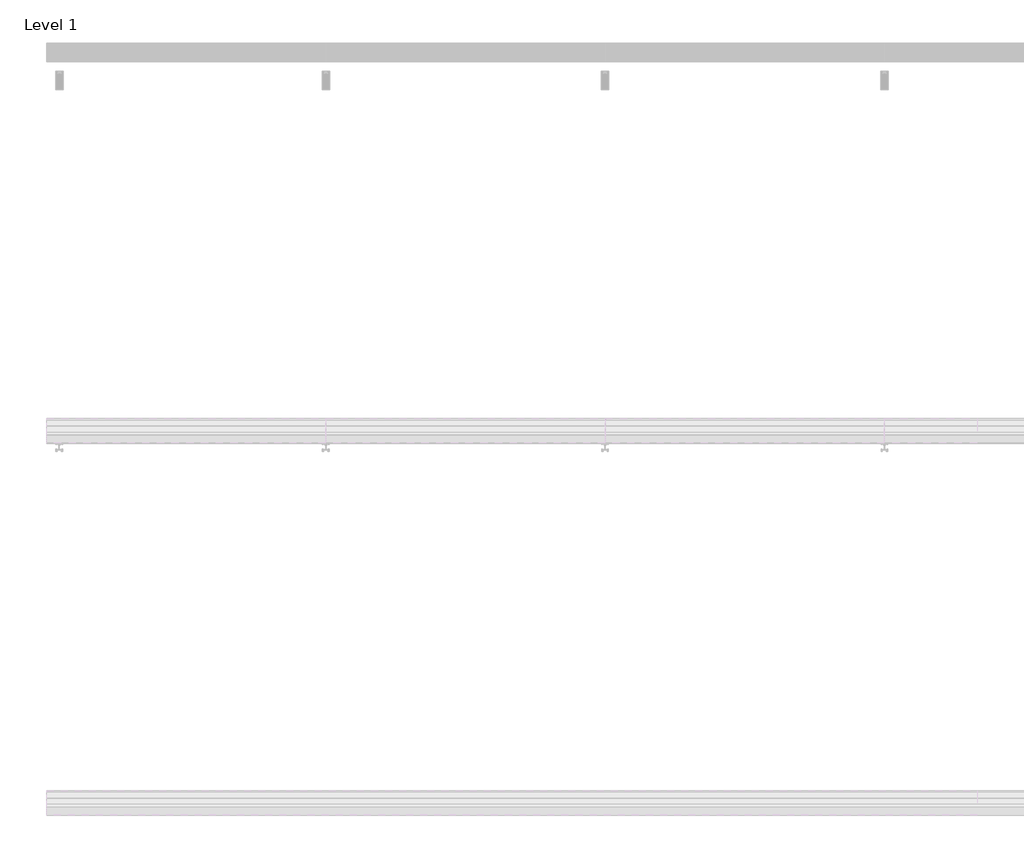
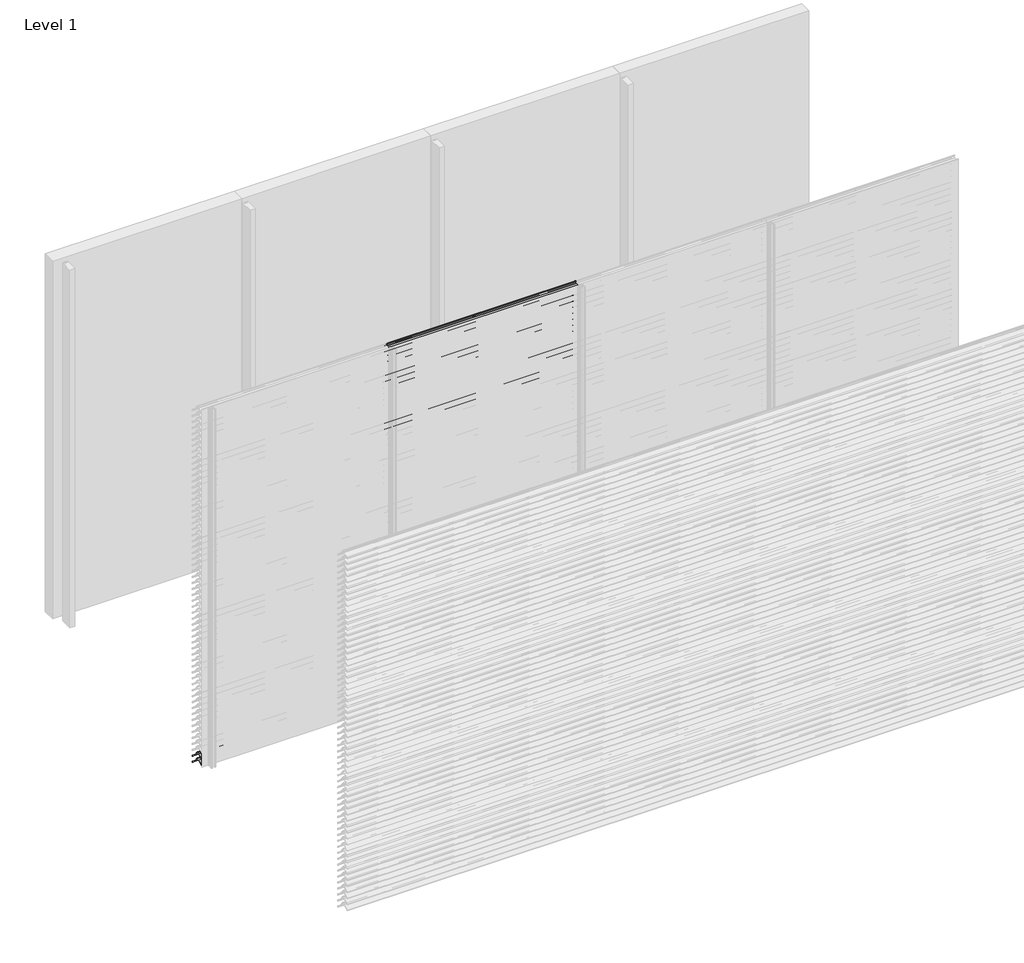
# One storey, part 44 of 173: 17 proxies.
"""IFC4 building model written with IfcOpenShell, lengths in millimetres."""

from ifc_helpers import new_model, si_unit, point, frame, frame_2d, origin, place, context, project, spatial, polyline, circle_curve, trimmed, segment, composite_curve, outline, extrude, element, save

model = new_model("IFC4")

# Units and contexts
model_context = context("Model", 3, world=origin())
ifc_project = project(units=[si_unit("LENGTHUNIT", "METRE", prefix="MILLI")], contexts=[model_context])

# Site, building, storey
site = spatial("IfcSite", under=ifc_project)
building = spatial("IfcBuilding", under=site)
storey = spatial("IfcBuildingStorey", under=building, Name="Level 1", Elevation=0.0)

# Proxies
placement = place(None, origin())
element("IfcBuildingElementProxy", 1, Name="Wall Sweeps", at=placement, inside=storey, context=model_context, shape_type="SweptSolid", body=[
    extrude(outline(composite_curve([segment(polyline([(-41998.0, 59.1474905), (-41998.0, 61.6227417)]), True, "CONTINUOUS"), segment(trimmed(circle_curve(frame_2d((-41951.2682172, 16.2200208)), 65.1557103), [point((-41998.0, 61.6227417))], [point((-41954.4014323, 81.3003524))], False, "CARTESIAN"), True, "CONTINUOUS"), segment(polyline([(-41954.4014323, 81.3003524), (-41934.8315836, 81.3003524)]), True, "CONTINUOUS"), segment(trimmed(circle_curve(frame_2d((-41732.7329489, 228.5533172)), 250.0545817), [point((-41934.8315836, 81.3003524))], [point((-41941.4452143, 90.8344583))], False, "CARTESIAN"), True, "CONTINUOUS"), segment(trimmed(circle_curve(frame_2d((-41953.2981792, 85.1737835)), 13.1352966), [point((-41941.4452143, 90.8344583))], [point((-41953.8171475, 98.298824))], True, "CARTESIAN"), True, "CONTINUOUS"), segment(polyline([(-41953.8171475, 98.298824), (-41953.8171475, 100.0)]), True, "CONTINUOUS"), segment(trimmed(circle_curve(frame_2d((-41953.2981792, 85.1737835)), 14.8352966), [point((-41953.8171475, 100.0))], [point((-41939.9637661, 91.6760487))], False, "CARTESIAN"), True, "CONTINUOUS"), segment(trimmed(circle_curve(frame_2d((-41732.7329489, 228.5533172)), 248.3545817), [point((-41939.9637661, 91.6760487))], [point((-41873.8787895, 24.2059416))], True, "CARTESIAN"), True, "CONTINUOUS"), segment(trimmed(circle_curve(frame_2d((-41883.8147537, 11.6649442)), 16.0), [point((-41873.8787895, 24.2059416))], [point((-41867.8648347, 10.4))], False, "CARTESIAN"), True, "CONTINUOUS"), segment(polyline([(-41867.8648347, 10.4), (-41869.6712069, 10.4)]), True, "CONTINUOUS"), segment(trimmed(circle_curve(frame_2d((-41883.8147537, 11.6649442)), 14.2), [point((-41869.6712069, 10.4))], [point((-41874.9518628, 22.7594998))], True, "CARTESIAN"), True, "CONTINUOUS"), segment(trimmed(circle_curve(frame_2d((-41732.7329489, 228.5533172)), 250.1545817), [point((-41874.9518628, 22.7594998))], [point((-41933.7064024, 79.6003524))], False, "CARTESIAN"), True, "CONTINUOUS"), segment(polyline([(-41933.7064024, 79.6003524), (-41954.3602632, 79.6003524)]), True, "CONTINUOUS"), segment(trimmed(circle_curve(frame_2d((-41951.2682172, 16.2200208)), 63.4557103), [point((-41954.3602632, 79.6003524))], [point((-41998.0, 59.1474905))], True, "CARTESIAN"), True, "CONTINUOUS")], self_intersect=False)), frame((0.0, 0.0, 0.0), z_axis=(1.0, 0.0, 0.0), x_axis=(0.0, 1.0, 0.0)), (0.0, 0.0, 1.0), 1500.0),
])
element("IfcBuildingElementProxy", 2, Name="Wall Sweeps", at=placement, inside=storey, context=model_context, shape_type="SweptSolid", body=[
    extrude(outline(composite_curve([segment(polyline([(-41998.0, 9.1474905), (-41998.0, 11.6227417)]), True, "CONTINUOUS"), segment(trimmed(circle_curve(frame_2d((-41951.2682172, -33.7799792)), 65.1557103), [point((-41998.0, 11.6227417))], [point((-41954.4014323, 31.3003524))], False, "CARTESIAN"), True, "CONTINUOUS"), segment(polyline([(-41954.4014323, 31.3003524), (-41934.8315836, 31.3003524)]), True, "CONTINUOUS"), segment(trimmed(circle_curve(frame_2d((-41732.7329489, 178.5533172)), 250.0545817), [point((-41934.8315836, 31.3003524))], [point((-41941.4452143, 40.8344583))], False, "CARTESIAN"), True, "CONTINUOUS"), segment(trimmed(circle_curve(frame_2d((-41953.2981792, 35.1737835)), 13.1352966), [point((-41941.4452143, 40.8344583))], [point((-41953.8171475, 48.298824))], True, "CARTESIAN"), True, "CONTINUOUS"), segment(polyline([(-41953.8171475, 48.298824), (-41953.8171475, 50.0)]), True, "CONTINUOUS"), segment(trimmed(circle_curve(frame_2d((-41953.2981792, 35.1737835)), 14.8352966), [point((-41953.8171475, 50.0))], [point((-41939.9637661, 41.6760487))], False, "CARTESIAN"), True, "CONTINUOUS"), segment(trimmed(circle_curve(frame_2d((-41732.7329489, 178.5533172)), 248.3545817), [point((-41939.9637661, 41.6760487))], [point((-41873.8787895, -25.7940584))], True, "CARTESIAN"), True, "CONTINUOUS"), segment(trimmed(circle_curve(frame_2d((-41883.8147537, -38.3350558)), 16.0), [point((-41873.8787895, -25.7940584))], [point((-41867.8648347, -39.6))], False, "CARTESIAN"), True, "CONTINUOUS"), segment(polyline([(-41867.8648347, -39.6), (-41869.6712069, -39.6)]), True, "CONTINUOUS"), segment(trimmed(circle_curve(frame_2d((-41883.8147537, -38.3350558)), 14.2), [point((-41869.6712069, -39.6))], [point((-41874.9518628, -27.2405002))], True, "CARTESIAN"), True, "CONTINUOUS"), segment(trimmed(circle_curve(frame_2d((-41732.7329489, 178.5533172)), 250.1545817), [point((-41874.9518628, -27.2405002))], [point((-41933.7064024, 29.6003524))], False, "CARTESIAN"), True, "CONTINUOUS"), segment(polyline([(-41933.7064024, 29.6003524), (-41954.3602632, 29.6003524)]), True, "CONTINUOUS"), segment(trimmed(circle_curve(frame_2d((-41951.2682172, -33.7799792)), 63.4557103), [point((-41954.3602632, 29.6003524))], [point((-41998.0, 9.1474905))], True, "CARTESIAN"), True, "CONTINUOUS")], self_intersect=False)), frame((0.0, 0.0, 0.0), z_axis=(1.0, 0.0, 0.0), x_axis=(0.0, 1.0, 0.0)), (0.0, 0.0, 1.0), 1500.0),
])
element("IfcBuildingElementProxy", 3, Name="Wall Sweeps", at=placement, inside=storey, context=model_context, shape_type="SweptSolid", body=[
    extrude(outline(composite_curve([segment(polyline([(-41998.0, 2959.1474905), (-41998.0, 2961.6227417)]), True, "CONTINUOUS"), segment(trimmed(circle_curve(frame_2d((-41951.2682172, 2916.2200208)), 65.1557103), [point((-41998.0, 2961.6227417))], [point((-41954.4014323, 2981.3003524))], False, "CARTESIAN"), True, "CONTINUOUS"), segment(polyline([(-41954.4014323, 2981.3003524), (-41934.8315836, 2981.3003524)]), True, "CONTINUOUS"), segment(trimmed(circle_curve(frame_2d((-41732.7329489, 3128.5533172)), 250.0545817), [point((-41934.8315836, 2981.3003524))], [point((-41941.4452143, 2990.8344583))], False, "CARTESIAN"), True, "CONTINUOUS"), segment(trimmed(circle_curve(frame_2d((-41953.2981792, 2985.1737835)), 13.1352966), [point((-41941.4452143, 2990.8344583))], [point((-41953.8171475, 2998.298824))], True, "CARTESIAN"), True, "CONTINUOUS"), segment(polyline([(-41953.8171475, 2998.298824), (-41953.8171475, 3000.0)]), True, "CONTINUOUS"), segment(trimmed(circle_curve(frame_2d((-41953.2981792, 2985.1737835)), 14.8352966), [point((-41953.8171475, 3000.0))], [point((-41939.9637661, 2991.6760487))], False, "CARTESIAN"), True, "CONTINUOUS"), segment(trimmed(circle_curve(frame_2d((-41732.7329489, 3128.5533172)), 248.3545817), [point((-41939.9637661, 2991.6760487))], [point((-41873.8787895, 2924.2059416))], True, "CARTESIAN"), True, "CONTINUOUS"), segment(trimmed(circle_curve(frame_2d((-41883.8147537, 2911.6649442)), 16.0), [point((-41873.8787895, 2924.2059416))], [point((-41867.8648347, 2910.4))], False, "CARTESIAN"), True, "CONTINUOUS"), segment(polyline([(-41867.8648347, 2910.4), (-41869.6712069, 2910.4)]), True, "CONTINUOUS"), segment(trimmed(circle_curve(frame_2d((-41883.8147537, 2911.6649442)), 14.2), [point((-41869.6712069, 2910.4))], [point((-41874.9518628, 2922.7594998))], True, "CARTESIAN"), True, "CONTINUOUS"), segment(trimmed(circle_curve(frame_2d((-41732.7329489, 3128.5533172)), 250.1545817), [point((-41874.9518628, 2922.7594998))], [point((-41933.7064024, 2979.6003524))], False, "CARTESIAN"), True, "CONTINUOUS"), segment(polyline([(-41933.7064024, 2979.6003524), (-41954.3602632, 2979.6003524)]), True, "CONTINUOUS"), segment(trimmed(circle_curve(frame_2d((-41951.2682172, 2916.2200208)), 63.4557103), [point((-41954.3602632, 2979.6003524))], [point((-41998.0, 2959.1474905))], True, "CARTESIAN"), True, "CONTINUOUS")], self_intersect=False)), frame((1500.0, 0.0, 0.0), z_axis=(1.0, 0.0, 0.0), x_axis=(0.0, 1.0, 0.0)), (0.0, 0.0, 1.0), 1500.0),
])
element("IfcBuildingElementProxy", 4, Name="Wall Sweeps", at=placement, inside=storey, context=model_context, shape_type="SweptSolid", body=[
    extrude(outline(composite_curve([segment(polyline([(-41998.0, 2909.1474905), (-41998.0, 2911.6227417)]), True, "CONTINUOUS"), segment(trimmed(circle_curve(frame_2d((-41951.2682172, 2866.2200208)), 65.1557103), [point((-41998.0, 2911.6227417))], [point((-41954.4014323, 2931.3003524))], False, "CARTESIAN"), True, "CONTINUOUS"), segment(polyline([(-41954.4014323, 2931.3003524), (-41934.8315836, 2931.3003524)]), True, "CONTINUOUS"), segment(trimmed(circle_curve(frame_2d((-41732.7329489, 3078.5533172)), 250.0545817), [point((-41934.8315836, 2931.3003524))], [point((-41941.4452143, 2940.8344583))], False, "CARTESIAN"), True, "CONTINUOUS"), segment(trimmed(circle_curve(frame_2d((-41953.2981792, 2935.1737835)), 13.1352966), [point((-41941.4452143, 2940.8344583))], [point((-41953.8171475, 2948.298824))], True, "CARTESIAN"), True, "CONTINUOUS"), segment(polyline([(-41953.8171475, 2948.298824), (-41953.8171475, 2950.0)]), True, "CONTINUOUS"), segment(trimmed(circle_curve(frame_2d((-41953.2981792, 2935.1737835)), 14.8352966), [point((-41953.8171475, 2950.0))], [point((-41939.9637661, 2941.6760487))], False, "CARTESIAN"), True, "CONTINUOUS"), segment(trimmed(circle_curve(frame_2d((-41732.7329489, 3078.5533172)), 248.3545817), [point((-41939.9637661, 2941.6760487))], [point((-41873.8787895, 2874.2059416))], True, "CARTESIAN"), True, "CONTINUOUS"), segment(trimmed(circle_curve(frame_2d((-41883.8147537, 2861.6649442)), 16.0), [point((-41873.8787895, 2874.2059416))], [point((-41867.8648347, 2860.4))], False, "CARTESIAN"), True, "CONTINUOUS"), segment(polyline([(-41867.8648347, 2860.4), (-41869.6712069, 2860.4)]), True, "CONTINUOUS"), segment(trimmed(circle_curve(frame_2d((-41883.8147537, 2861.6649442)), 14.2), [point((-41869.6712069, 2860.4))], [point((-41874.9518628, 2872.7594998))], True, "CARTESIAN"), True, "CONTINUOUS"), segment(trimmed(circle_curve(frame_2d((-41732.7329489, 3078.5533172)), 250.1545817), [point((-41874.9518628, 2872.7594998))], [point((-41933.7064024, 2929.6003524))], False, "CARTESIAN"), True, "CONTINUOUS"), segment(polyline([(-41933.7064024, 2929.6003524), (-41954.3602632, 2929.6003524)]), True, "CONTINUOUS"), segment(trimmed(circle_curve(frame_2d((-41951.2682172, 2866.2200208)), 63.4557103), [point((-41954.3602632, 2929.6003524))], [point((-41998.0, 2909.1474905))], True, "CARTESIAN"), True, "CONTINUOUS")], self_intersect=False)), frame((1500.0, 0.0, 0.0), z_axis=(1.0, 0.0, 0.0), x_axis=(0.0, 1.0, 0.0)), (0.0, 0.0, 1.0), 1500.0),
])
element("IfcBuildingElementProxy", 5, Name="Wall Sweeps", at=placement, inside=storey, context=model_context, shape_type="SweptSolid", body=[
    extrude(outline(composite_curve([segment(polyline([(-41998.0, 2859.1474905), (-41998.0, 2861.6227417)]), True, "CONTINUOUS"), segment(trimmed(circle_curve(frame_2d((-41951.2682172, 2816.2200208)), 65.1557103), [point((-41998.0, 2861.6227417))], [point((-41954.4014323, 2881.3003524))], False, "CARTESIAN"), True, "CONTINUOUS"), segment(polyline([(-41954.4014323, 2881.3003524), (-41934.8315836, 2881.3003524)]), True, "CONTINUOUS"), segment(trimmed(circle_curve(frame_2d((-41732.7329489, 3028.5533172)), 250.0545817), [point((-41934.8315836, 2881.3003524))], [point((-41941.4452143, 2890.8344583))], False, "CARTESIAN"), True, "CONTINUOUS"), segment(trimmed(circle_curve(frame_2d((-41953.2981792, 2885.1737835)), 13.1352966), [point((-41941.4452143, 2890.8344583))], [point((-41953.8171475, 2898.298824))], True, "CARTESIAN"), True, "CONTINUOUS"), segment(polyline([(-41953.8171475, 2898.298824), (-41953.8171475, 2900.0)]), True, "CONTINUOUS"), segment(trimmed(circle_curve(frame_2d((-41953.2981792, 2885.1737835)), 14.8352966), [point((-41953.8171475, 2900.0))], [point((-41939.9637661, 2891.6760487))], False, "CARTESIAN"), True, "CONTINUOUS"), segment(trimmed(circle_curve(frame_2d((-41732.7329489, 3028.5533172)), 248.3545817), [point((-41939.9637661, 2891.6760487))], [point((-41873.8787895, 2824.2059416))], True, "CARTESIAN"), True, "CONTINUOUS"), segment(trimmed(circle_curve(frame_2d((-41883.8147537, 2811.6649442)), 16.0), [point((-41873.8787895, 2824.2059416))], [point((-41867.8648347, 2810.4))], False, "CARTESIAN"), True, "CONTINUOUS"), segment(polyline([(-41867.8648347, 2810.4), (-41869.6712069, 2810.4)]), True, "CONTINUOUS"), segment(trimmed(circle_curve(frame_2d((-41883.8147537, 2811.6649442)), 14.2), [point((-41869.6712069, 2810.4))], [point((-41874.9518628, 2822.7594998))], True, "CARTESIAN"), True, "CONTINUOUS"), segment(trimmed(circle_curve(frame_2d((-41732.7329489, 3028.5533172)), 250.1545817), [point((-41874.9518628, 2822.7594998))], [point((-41933.7064024, 2879.6003524))], False, "CARTESIAN"), True, "CONTINUOUS"), segment(polyline([(-41933.7064024, 2879.6003524), (-41954.3602632, 2879.6003524)]), True, "CONTINUOUS"), segment(trimmed(circle_curve(frame_2d((-41951.2682172, 2816.2200208)), 63.4557103), [point((-41954.3602632, 2879.6003524))], [point((-41998.0, 2859.1474905))], True, "CARTESIAN"), True, "CONTINUOUS")], self_intersect=False)), frame((1500.0, 0.0, 0.0), z_axis=(1.0, 0.0, 0.0), x_axis=(0.0, 1.0, 0.0)), (0.0, 0.0, 1.0), 1500.0),
])
element("IfcBuildingElementProxy", 6, Name="Wall Sweeps", at=placement, inside=storey, context=model_context, shape_type="SweptSolid", body=[
    extrude(outline(composite_curve([segment(polyline([(-41998.0, 2809.1474905), (-41998.0, 2811.6227417)]), True, "CONTINUOUS"), segment(trimmed(circle_curve(frame_2d((-41951.2682172, 2766.2200208)), 65.1557103), [point((-41998.0, 2811.6227417))], [point((-41954.4014323, 2831.3003524))], False, "CARTESIAN"), True, "CONTINUOUS"), segment(polyline([(-41954.4014323, 2831.3003524), (-41934.8315836, 2831.3003524)]), True, "CONTINUOUS"), segment(trimmed(circle_curve(frame_2d((-41732.7329489, 2978.5533172)), 250.0545817), [point((-41934.8315836, 2831.3003524))], [point((-41941.4452143, 2840.8344583))], False, "CARTESIAN"), True, "CONTINUOUS"), segment(trimmed(circle_curve(frame_2d((-41953.2981792, 2835.1737835)), 13.1352966), [point((-41941.4452143, 2840.8344583))], [point((-41953.8171475, 2848.298824))], True, "CARTESIAN"), True, "CONTINUOUS"), segment(polyline([(-41953.8171475, 2848.298824), (-41953.8171475, 2850.0)]), True, "CONTINUOUS"), segment(trimmed(circle_curve(frame_2d((-41953.2981792, 2835.1737835)), 14.8352966), [point((-41953.8171475, 2850.0))], [point((-41939.9637661, 2841.6760487))], False, "CARTESIAN"), True, "CONTINUOUS"), segment(trimmed(circle_curve(frame_2d((-41732.7329489, 2978.5533172)), 248.3545817), [point((-41939.9637661, 2841.6760487))], [point((-41873.8787895, 2774.2059416))], True, "CARTESIAN"), True, "CONTINUOUS"), segment(trimmed(circle_curve(frame_2d((-41883.8147537, 2761.6649442)), 16.0), [point((-41873.8787895, 2774.2059416))], [point((-41867.8648347, 2760.4))], False, "CARTESIAN"), True, "CONTINUOUS"), segment(polyline([(-41867.8648347, 2760.4), (-41869.6712069, 2760.4)]), True, "CONTINUOUS"), segment(trimmed(circle_curve(frame_2d((-41883.8147537, 2761.6649442)), 14.2), [point((-41869.6712069, 2760.4))], [point((-41874.9518628, 2772.7594998))], True, "CARTESIAN"), True, "CONTINUOUS"), segment(trimmed(circle_curve(frame_2d((-41732.7329489, 2978.5533172)), 250.1545817), [point((-41874.9518628, 2772.7594998))], [point((-41933.7064024, 2829.6003524))], False, "CARTESIAN"), True, "CONTINUOUS"), segment(polyline([(-41933.7064024, 2829.6003524), (-41954.3602632, 2829.6003524)]), True, "CONTINUOUS"), segment(trimmed(circle_curve(frame_2d((-41951.2682172, 2766.2200208)), 63.4557103), [point((-41954.3602632, 2829.6003524))], [point((-41998.0, 2809.1474905))], True, "CARTESIAN"), True, "CONTINUOUS")], self_intersect=False)), frame((1500.0, 0.0, 0.0), z_axis=(1.0, 0.0, 0.0), x_axis=(0.0, 1.0, 0.0)), (0.0, 0.0, 1.0), 1500.0),
])
element("IfcBuildingElementProxy", 7, Name="Wall Sweeps", at=placement, inside=storey, context=model_context, shape_type="SweptSolid", body=[
    extrude(outline(composite_curve([segment(polyline([(-41998.0, 2759.1474905), (-41998.0, 2761.6227417)]), True, "CONTINUOUS"), segment(trimmed(circle_curve(frame_2d((-41951.2682172, 2716.2200208)), 65.1557103), [point((-41998.0, 2761.6227417))], [point((-41954.4014323, 2781.3003524))], False, "CARTESIAN"), True, "CONTINUOUS"), segment(polyline([(-41954.4014323, 2781.3003524), (-41934.8315836, 2781.3003524)]), True, "CONTINUOUS"), segment(trimmed(circle_curve(frame_2d((-41732.7329489, 2928.5533172)), 250.0545817), [point((-41934.8315836, 2781.3003524))], [point((-41941.4452143, 2790.8344583))], False, "CARTESIAN"), True, "CONTINUOUS"), segment(trimmed(circle_curve(frame_2d((-41953.2981792, 2785.1737835)), 13.1352966), [point((-41941.4452143, 2790.8344583))], [point((-41953.8171475, 2798.298824))], True, "CARTESIAN"), True, "CONTINUOUS"), segment(polyline([(-41953.8171475, 2798.298824), (-41953.8171475, 2800.0)]), True, "CONTINUOUS"), segment(trimmed(circle_curve(frame_2d((-41953.2981792, 2785.1737835)), 14.8352966), [point((-41953.8171475, 2800.0))], [point((-41939.9637661, 2791.6760487))], False, "CARTESIAN"), True, "CONTINUOUS"), segment(trimmed(circle_curve(frame_2d((-41732.7329489, 2928.5533172)), 248.3545817), [point((-41939.9637661, 2791.6760487))], [point((-41873.8787895, 2724.2059416))], True, "CARTESIAN"), True, "CONTINUOUS"), segment(trimmed(circle_curve(frame_2d((-41883.8147537, 2711.6649442)), 16.0), [point((-41873.8787895, 2724.2059416))], [point((-41867.8648347, 2710.4))], False, "CARTESIAN"), True, "CONTINUOUS"), segment(polyline([(-41867.8648347, 2710.4), (-41869.6712069, 2710.4)]), True, "CONTINUOUS"), segment(trimmed(circle_curve(frame_2d((-41883.8147537, 2711.6649442)), 14.2), [point((-41869.6712069, 2710.4))], [point((-41874.9518628, 2722.7594998))], True, "CARTESIAN"), True, "CONTINUOUS"), segment(trimmed(circle_curve(frame_2d((-41732.7329489, 2928.5533172)), 250.1545817), [point((-41874.9518628, 2722.7594998))], [point((-41933.7064024, 2779.6003524))], False, "CARTESIAN"), True, "CONTINUOUS"), segment(polyline([(-41933.7064024, 2779.6003524), (-41954.3602632, 2779.6003524)]), True, "CONTINUOUS"), segment(trimmed(circle_curve(frame_2d((-41951.2682172, 2716.2200208)), 63.4557103), [point((-41954.3602632, 2779.6003524))], [point((-41998.0, 2759.1474905))], True, "CARTESIAN"), True, "CONTINUOUS")], self_intersect=False)), frame((1500.0, 0.0, 0.0), z_axis=(1.0, 0.0, 0.0), x_axis=(0.0, 1.0, 0.0)), (0.0, 0.0, 1.0), 1500.0),
])
element("IfcBuildingElementProxy", 8, Name="Wall Sweeps", at=placement, inside=storey, context=model_context, shape_type="SweptSolid", body=[
    extrude(outline(composite_curve([segment(polyline([(-41998.0, 2709.1474905), (-41998.0, 2711.6227417)]), True, "CONTINUOUS"), segment(trimmed(circle_curve(frame_2d((-41951.2682172, 2666.2200208)), 65.1557103), [point((-41998.0, 2711.6227417))], [point((-41954.4014323, 2731.3003524))], False, "CARTESIAN"), True, "CONTINUOUS"), segment(polyline([(-41954.4014323, 2731.3003524), (-41934.8315836, 2731.3003524)]), True, "CONTINUOUS"), segment(trimmed(circle_curve(frame_2d((-41732.7329489, 2878.5533172)), 250.0545817), [point((-41934.8315836, 2731.3003524))], [point((-41941.4452143, 2740.8344583))], False, "CARTESIAN"), True, "CONTINUOUS"), segment(trimmed(circle_curve(frame_2d((-41953.2981792, 2735.1737835)), 13.1352966), [point((-41941.4452143, 2740.8344583))], [point((-41953.8171475, 2748.298824))], True, "CARTESIAN"), True, "CONTINUOUS"), segment(polyline([(-41953.8171475, 2748.298824), (-41953.8171475, 2750.0)]), True, "CONTINUOUS"), segment(trimmed(circle_curve(frame_2d((-41953.2981792, 2735.1737835)), 14.8352966), [point((-41953.8171475, 2750.0))], [point((-41939.9637661, 2741.6760487))], False, "CARTESIAN"), True, "CONTINUOUS"), segment(trimmed(circle_curve(frame_2d((-41732.7329489, 2878.5533172)), 248.3545817), [point((-41939.9637661, 2741.6760487))], [point((-41873.8787895, 2674.2059416))], True, "CARTESIAN"), True, "CONTINUOUS"), segment(trimmed(circle_curve(frame_2d((-41883.8147537, 2661.6649442)), 16.0), [point((-41873.8787895, 2674.2059416))], [point((-41867.8648347, 2660.4))], False, "CARTESIAN"), True, "CONTINUOUS"), segment(polyline([(-41867.8648347, 2660.4), (-41869.6712069, 2660.4)]), True, "CONTINUOUS"), segment(trimmed(circle_curve(frame_2d((-41883.8147537, 2661.6649442)), 14.2), [point((-41869.6712069, 2660.4))], [point((-41874.9518628, 2672.7594998))], True, "CARTESIAN"), True, "CONTINUOUS"), segment(trimmed(circle_curve(frame_2d((-41732.7329489, 2878.5533172)), 250.1545817), [point((-41874.9518628, 2672.7594998))], [point((-41933.7064024, 2729.6003524))], False, "CARTESIAN"), True, "CONTINUOUS"), segment(polyline([(-41933.7064024, 2729.6003524), (-41954.3602632, 2729.6003524)]), True, "CONTINUOUS"), segment(trimmed(circle_curve(frame_2d((-41951.2682172, 2666.2200208)), 63.4557103), [point((-41954.3602632, 2729.6003524))], [point((-41998.0, 2709.1474905))], True, "CARTESIAN"), True, "CONTINUOUS")], self_intersect=False)), frame((1500.0, 0.0, 0.0), z_axis=(1.0, 0.0, 0.0), x_axis=(0.0, 1.0, 0.0)), (0.0, 0.0, 1.0), 1500.0),
])
element("IfcBuildingElementProxy", 9, Name="Wall Sweeps", at=placement, inside=storey, context=model_context, shape_type="SweptSolid", body=[
    extrude(outline(composite_curve([segment(polyline([(-41998.0, 2659.1474905), (-41998.0, 2661.6227417)]), True, "CONTINUOUS"), segment(trimmed(circle_curve(frame_2d((-41951.2682172, 2616.2200208)), 65.1557103), [point((-41998.0, 2661.6227417))], [point((-41954.4014323, 2681.3003524))], False, "CARTESIAN"), True, "CONTINUOUS"), segment(polyline([(-41954.4014323, 2681.3003524), (-41934.8315836, 2681.3003524)]), True, "CONTINUOUS"), segment(trimmed(circle_curve(frame_2d((-41732.7329489, 2828.5533172)), 250.0545817), [point((-41934.8315836, 2681.3003524))], [point((-41941.4452143, 2690.8344583))], False, "CARTESIAN"), True, "CONTINUOUS"), segment(trimmed(circle_curve(frame_2d((-41953.2981792, 2685.1737835)), 13.1352966), [point((-41941.4452143, 2690.8344583))], [point((-41953.8171475, 2698.298824))], True, "CARTESIAN"), True, "CONTINUOUS"), segment(polyline([(-41953.8171475, 2698.298824), (-41953.8171475, 2700.0)]), True, "CONTINUOUS"), segment(trimmed(circle_curve(frame_2d((-41953.2981792, 2685.1737835)), 14.8352966), [point((-41953.8171475, 2700.0))], [point((-41939.9637661, 2691.6760487))], False, "CARTESIAN"), True, "CONTINUOUS"), segment(trimmed(circle_curve(frame_2d((-41732.7329489, 2828.5533172)), 248.3545817), [point((-41939.9637661, 2691.6760487))], [point((-41873.8787895, 2624.2059416))], True, "CARTESIAN"), True, "CONTINUOUS"), segment(trimmed(circle_curve(frame_2d((-41883.8147537, 2611.6649442)), 16.0), [point((-41873.8787895, 2624.2059416))], [point((-41867.8648347, 2610.4))], False, "CARTESIAN"), True, "CONTINUOUS"), segment(polyline([(-41867.8648347, 2610.4), (-41869.6712069, 2610.4)]), True, "CONTINUOUS"), segment(trimmed(circle_curve(frame_2d((-41883.8147537, 2611.6649442)), 14.2), [point((-41869.6712069, 2610.4))], [point((-41874.9518628, 2622.7594998))], True, "CARTESIAN"), True, "CONTINUOUS"), segment(trimmed(circle_curve(frame_2d((-41732.7329489, 2828.5533172)), 250.1545817), [point((-41874.9518628, 2622.7594998))], [point((-41933.7064024, 2679.6003524))], False, "CARTESIAN"), True, "CONTINUOUS"), segment(polyline([(-41933.7064024, 2679.6003524), (-41954.3602632, 2679.6003524)]), True, "CONTINUOUS"), segment(trimmed(circle_curve(frame_2d((-41951.2682172, 2616.2200208)), 63.4557103), [point((-41954.3602632, 2679.6003524))], [point((-41998.0, 2659.1474905))], True, "CARTESIAN"), True, "CONTINUOUS")], self_intersect=False)), frame((1500.0, 0.0, 0.0), z_axis=(1.0, 0.0, 0.0), x_axis=(0.0, 1.0, 0.0)), (0.0, 0.0, 1.0), 1500.0),
])
element("IfcBuildingElementProxy", 10, Name="Wall Sweeps", at=placement, inside=storey, context=model_context, shape_type="SweptSolid", body=[
    extrude(outline(composite_curve([segment(polyline([(-41998.0, 2609.1474905), (-41998.0, 2611.6227417)]), True, "CONTINUOUS"), segment(trimmed(circle_curve(frame_2d((-41951.2682172, 2566.2200208)), 65.1557103), [point((-41998.0, 2611.6227417))], [point((-41954.4014323, 2631.3003524))], False, "CARTESIAN"), True, "CONTINUOUS"), segment(polyline([(-41954.4014323, 2631.3003524), (-41934.8315836, 2631.3003524)]), True, "CONTINUOUS"), segment(trimmed(circle_curve(frame_2d((-41732.7329489, 2778.5533172)), 250.0545817), [point((-41934.8315836, 2631.3003524))], [point((-41941.4452143, 2640.8344583))], False, "CARTESIAN"), True, "CONTINUOUS"), segment(trimmed(circle_curve(frame_2d((-41953.2981792, 2635.1737835)), 13.1352966), [point((-41941.4452143, 2640.8344583))], [point((-41953.8171475, 2648.298824))], True, "CARTESIAN"), True, "CONTINUOUS"), segment(polyline([(-41953.8171475, 2648.298824), (-41953.8171475, 2650.0)]), True, "CONTINUOUS"), segment(trimmed(circle_curve(frame_2d((-41953.2981792, 2635.1737835)), 14.8352966), [point((-41953.8171475, 2650.0))], [point((-41939.9637661, 2641.6760487))], False, "CARTESIAN"), True, "CONTINUOUS"), segment(trimmed(circle_curve(frame_2d((-41732.7329489, 2778.5533172)), 248.3545817), [point((-41939.9637661, 2641.6760487))], [point((-41873.8787895, 2574.2059416))], True, "CARTESIAN"), True, "CONTINUOUS"), segment(trimmed(circle_curve(frame_2d((-41883.8147537, 2561.6649442)), 16.0), [point((-41873.8787895, 2574.2059416))], [point((-41867.8648347, 2560.4))], False, "CARTESIAN"), True, "CONTINUOUS"), segment(polyline([(-41867.8648347, 2560.4), (-41869.6712069, 2560.4)]), True, "CONTINUOUS"), segment(trimmed(circle_curve(frame_2d((-41883.8147537, 2561.6649442)), 14.2), [point((-41869.6712069, 2560.4))], [point((-41874.9518628, 2572.7594998))], True, "CARTESIAN"), True, "CONTINUOUS"), segment(trimmed(circle_curve(frame_2d((-41732.7329489, 2778.5533172)), 250.1545817), [point((-41874.9518628, 2572.7594998))], [point((-41933.7064024, 2629.6003524))], False, "CARTESIAN"), True, "CONTINUOUS"), segment(polyline([(-41933.7064024, 2629.6003524), (-41954.3602632, 2629.6003524)]), True, "CONTINUOUS"), segment(trimmed(circle_curve(frame_2d((-41951.2682172, 2566.2200208)), 63.4557103), [point((-41954.3602632, 2629.6003524))], [point((-41998.0, 2609.1474905))], True, "CARTESIAN"), True, "CONTINUOUS")], self_intersect=False)), frame((1500.0, 0.0, 0.0), z_axis=(1.0, 0.0, 0.0), x_axis=(0.0, 1.0, 0.0)), (0.0, 0.0, 1.0), 1500.0),
])
element("IfcBuildingElementProxy", 11, Name="Wall Sweeps", at=placement, inside=storey, context=model_context, shape_type="SweptSolid", body=[
    extrude(outline(composite_curve([segment(polyline([(-41998.0, 2559.1474905), (-41998.0, 2561.6227417)]), True, "CONTINUOUS"), segment(trimmed(circle_curve(frame_2d((-41951.2682172, 2516.2200208)), 65.1557103), [point((-41998.0, 2561.6227417))], [point((-41954.4014323, 2581.3003524))], False, "CARTESIAN"), True, "CONTINUOUS"), segment(polyline([(-41954.4014323, 2581.3003524), (-41934.8315836, 2581.3003524)]), True, "CONTINUOUS"), segment(trimmed(circle_curve(frame_2d((-41732.7329489, 2728.5533172)), 250.0545817), [point((-41934.8315836, 2581.3003524))], [point((-41941.4452143, 2590.8344583))], False, "CARTESIAN"), True, "CONTINUOUS"), segment(trimmed(circle_curve(frame_2d((-41953.2981792, 2585.1737835)), 13.1352966), [point((-41941.4452143, 2590.8344583))], [point((-41953.8171475, 2598.298824))], True, "CARTESIAN"), True, "CONTINUOUS"), segment(polyline([(-41953.8171475, 2598.298824), (-41953.8171475, 2600.0)]), True, "CONTINUOUS"), segment(trimmed(circle_curve(frame_2d((-41953.2981792, 2585.1737835)), 14.8352966), [point((-41953.8171475, 2600.0))], [point((-41939.9637661, 2591.6760487))], False, "CARTESIAN"), True, "CONTINUOUS"), segment(trimmed(circle_curve(frame_2d((-41732.7329489, 2728.5533172)), 248.3545817), [point((-41939.9637661, 2591.6760487))], [point((-41873.8787895, 2524.2059416))], True, "CARTESIAN"), True, "CONTINUOUS"), segment(trimmed(circle_curve(frame_2d((-41883.8147537, 2511.6649442)), 16.0), [point((-41873.8787895, 2524.2059416))], [point((-41867.8648347, 2510.4))], False, "CARTESIAN"), True, "CONTINUOUS"), segment(polyline([(-41867.8648347, 2510.4), (-41869.6712069, 2510.4)]), True, "CONTINUOUS"), segment(trimmed(circle_curve(frame_2d((-41883.8147537, 2511.6649442)), 14.2), [point((-41869.6712069, 2510.4))], [point((-41874.9518628, 2522.7594998))], True, "CARTESIAN"), True, "CONTINUOUS"), segment(trimmed(circle_curve(frame_2d((-41732.7329489, 2728.5533172)), 250.1545817), [point((-41874.9518628, 2522.7594998))], [point((-41933.7064024, 2579.6003524))], False, "CARTESIAN"), True, "CONTINUOUS"), segment(polyline([(-41933.7064024, 2579.6003524), (-41954.3602632, 2579.6003524)]), True, "CONTINUOUS"), segment(trimmed(circle_curve(frame_2d((-41951.2682172, 2516.2200208)), 63.4557103), [point((-41954.3602632, 2579.6003524))], [point((-41998.0, 2559.1474905))], True, "CARTESIAN"), True, "CONTINUOUS")], self_intersect=False)), frame((1500.0, 0.0, 0.0), z_axis=(1.0, 0.0, 0.0), x_axis=(0.0, 1.0, 0.0)), (0.0, 0.0, 1.0), 1500.0),
])
element("IfcBuildingElementProxy", 12, Name="Wall Sweeps", at=placement, inside=storey, context=model_context, shape_type="SweptSolid", body=[
    extrude(outline(composite_curve([segment(polyline([(-41998.0, 2509.1474905), (-41998.0, 2511.6227417)]), True, "CONTINUOUS"), segment(trimmed(circle_curve(frame_2d((-41951.2682172, 2466.2200208)), 65.1557103), [point((-41998.0, 2511.6227417))], [point((-41954.4014323, 2531.3003524))], False, "CARTESIAN"), True, "CONTINUOUS"), segment(polyline([(-41954.4014323, 2531.3003524), (-41934.8315836, 2531.3003524)]), True, "CONTINUOUS"), segment(trimmed(circle_curve(frame_2d((-41732.7329489, 2678.5533172)), 250.0545817), [point((-41934.8315836, 2531.3003524))], [point((-41941.4452143, 2540.8344583))], False, "CARTESIAN"), True, "CONTINUOUS"), segment(trimmed(circle_curve(frame_2d((-41953.2981792, 2535.1737835)), 13.1352966), [point((-41941.4452143, 2540.8344583))], [point((-41953.8171475, 2548.298824))], True, "CARTESIAN"), True, "CONTINUOUS"), segment(polyline([(-41953.8171475, 2548.298824), (-41953.8171475, 2550.0)]), True, "CONTINUOUS"), segment(trimmed(circle_curve(frame_2d((-41953.2981792, 2535.1737835)), 14.8352966), [point((-41953.8171475, 2550.0))], [point((-41939.9637661, 2541.6760487))], False, "CARTESIAN"), True, "CONTINUOUS"), segment(trimmed(circle_curve(frame_2d((-41732.7329489, 2678.5533172)), 248.3545817), [point((-41939.9637661, 2541.6760487))], [point((-41873.8787895, 2474.2059416))], True, "CARTESIAN"), True, "CONTINUOUS"), segment(trimmed(circle_curve(frame_2d((-41883.8147537, 2461.6649442)), 16.0), [point((-41873.8787895, 2474.2059416))], [point((-41867.8648347, 2460.4))], False, "CARTESIAN"), True, "CONTINUOUS"), segment(polyline([(-41867.8648347, 2460.4), (-41869.6712069, 2460.4)]), True, "CONTINUOUS"), segment(trimmed(circle_curve(frame_2d((-41883.8147537, 2461.6649442)), 14.2), [point((-41869.6712069, 2460.4))], [point((-41874.9518628, 2472.7594998))], True, "CARTESIAN"), True, "CONTINUOUS"), segment(trimmed(circle_curve(frame_2d((-41732.7329489, 2678.5533172)), 250.1545817), [point((-41874.9518628, 2472.7594998))], [point((-41933.7064024, 2529.6003524))], False, "CARTESIAN"), True, "CONTINUOUS"), segment(polyline([(-41933.7064024, 2529.6003524), (-41954.3602632, 2529.6003524)]), True, "CONTINUOUS"), segment(trimmed(circle_curve(frame_2d((-41951.2682172, 2466.2200208)), 63.4557103), [point((-41954.3602632, 2529.6003524))], [point((-41998.0, 2509.1474905))], True, "CARTESIAN"), True, "CONTINUOUS")], self_intersect=False)), frame((1500.0, 0.0, 0.0), z_axis=(1.0, 0.0, 0.0), x_axis=(0.0, 1.0, 0.0)), (0.0, 0.0, 1.0), 1500.0),
])
element("IfcBuildingElementProxy", 13, Name="Wall Sweeps", at=placement, inside=storey, context=model_context, shape_type="SweptSolid", body=[
    extrude(outline(composite_curve([segment(polyline([(-41998.0, 2459.1474905), (-41998.0, 2461.6227417)]), True, "CONTINUOUS"), segment(trimmed(circle_curve(frame_2d((-41951.2682172, 2416.2200208)), 65.1557103), [point((-41998.0, 2461.6227417))], [point((-41954.4014323, 2481.3003524))], False, "CARTESIAN"), True, "CONTINUOUS"), segment(polyline([(-41954.4014323, 2481.3003524), (-41934.8315836, 2481.3003524)]), True, "CONTINUOUS"), segment(trimmed(circle_curve(frame_2d((-41732.7329489, 2628.5533172)), 250.0545817), [point((-41934.8315836, 2481.3003524))], [point((-41941.4452143, 2490.8344583))], False, "CARTESIAN"), True, "CONTINUOUS"), segment(trimmed(circle_curve(frame_2d((-41953.2981792, 2485.1737835)), 13.1352966), [point((-41941.4452143, 2490.8344583))], [point((-41953.8171475, 2498.298824))], True, "CARTESIAN"), True, "CONTINUOUS"), segment(polyline([(-41953.8171475, 2498.298824), (-41953.8171475, 2500.0)]), True, "CONTINUOUS"), segment(trimmed(circle_curve(frame_2d((-41953.2981792, 2485.1737835)), 14.8352966), [point((-41953.8171475, 2500.0))], [point((-41939.9637661, 2491.6760487))], False, "CARTESIAN"), True, "CONTINUOUS"), segment(trimmed(circle_curve(frame_2d((-41732.7329489, 2628.5533172)), 248.3545817), [point((-41939.9637661, 2491.6760487))], [point((-41873.8787895, 2424.2059416))], True, "CARTESIAN"), True, "CONTINUOUS"), segment(trimmed(circle_curve(frame_2d((-41883.8147537, 2411.6649442)), 16.0), [point((-41873.8787895, 2424.2059416))], [point((-41867.8648347, 2410.4))], False, "CARTESIAN"), True, "CONTINUOUS"), segment(polyline([(-41867.8648347, 2410.4), (-41869.6712069, 2410.4)]), True, "CONTINUOUS"), segment(trimmed(circle_curve(frame_2d((-41883.8147537, 2411.6649442)), 14.2), [point((-41869.6712069, 2410.4))], [point((-41874.9518628, 2422.7594998))], True, "CARTESIAN"), True, "CONTINUOUS"), segment(trimmed(circle_curve(frame_2d((-41732.7329489, 2628.5533172)), 250.1545817), [point((-41874.9518628, 2422.7594998))], [point((-41933.7064024, 2479.6003524))], False, "CARTESIAN"), True, "CONTINUOUS"), segment(polyline([(-41933.7064024, 2479.6003524), (-41954.3602632, 2479.6003524)]), True, "CONTINUOUS"), segment(trimmed(circle_curve(frame_2d((-41951.2682172, 2416.2200208)), 63.4557103), [point((-41954.3602632, 2479.6003524))], [point((-41998.0, 2459.1474905))], True, "CARTESIAN"), True, "CONTINUOUS")], self_intersect=False)), frame((1500.0, 0.0, 0.0), z_axis=(1.0, 0.0, 0.0), x_axis=(0.0, 1.0, 0.0)), (0.0, 0.0, 1.0), 1500.0),
])
element("IfcBuildingElementProxy", 14, Name="Wall Sweeps", at=placement, inside=storey, context=model_context, shape_type="SweptSolid", body=[
    extrude(outline(composite_curve([segment(polyline([(-41998.0, 2409.1474905), (-41998.0, 2411.6227417)]), True, "CONTINUOUS"), segment(trimmed(circle_curve(frame_2d((-41951.2682172, 2366.2200208)), 65.1557103), [point((-41998.0, 2411.6227417))], [point((-41954.4014323, 2431.3003524))], False, "CARTESIAN"), True, "CONTINUOUS"), segment(polyline([(-41954.4014323, 2431.3003524), (-41934.8315836, 2431.3003524)]), True, "CONTINUOUS"), segment(trimmed(circle_curve(frame_2d((-41732.7329489, 2578.5533172)), 250.0545817), [point((-41934.8315836, 2431.3003524))], [point((-41941.4452143, 2440.8344583))], False, "CARTESIAN"), True, "CONTINUOUS"), segment(trimmed(circle_curve(frame_2d((-41953.2981792, 2435.1737835)), 13.1352966), [point((-41941.4452143, 2440.8344583))], [point((-41953.8171475, 2448.298824))], True, "CARTESIAN"), True, "CONTINUOUS"), segment(polyline([(-41953.8171475, 2448.298824), (-41953.8171475, 2450.0)]), True, "CONTINUOUS"), segment(trimmed(circle_curve(frame_2d((-41953.2981792, 2435.1737835)), 14.8352966), [point((-41953.8171475, 2450.0))], [point((-41939.9637661, 2441.6760487))], False, "CARTESIAN"), True, "CONTINUOUS"), segment(trimmed(circle_curve(frame_2d((-41732.7329489, 2578.5533172)), 248.3545817), [point((-41939.9637661, 2441.6760487))], [point((-41873.8787895, 2374.2059416))], True, "CARTESIAN"), True, "CONTINUOUS"), segment(trimmed(circle_curve(frame_2d((-41883.8147537, 2361.6649442)), 16.0), [point((-41873.8787895, 2374.2059416))], [point((-41867.8648347, 2360.4))], False, "CARTESIAN"), True, "CONTINUOUS"), segment(polyline([(-41867.8648347, 2360.4), (-41869.6712069, 2360.4)]), True, "CONTINUOUS"), segment(trimmed(circle_curve(frame_2d((-41883.8147537, 2361.6649442)), 14.2), [point((-41869.6712069, 2360.4))], [point((-41874.9518628, 2372.7594998))], True, "CARTESIAN"), True, "CONTINUOUS"), segment(trimmed(circle_curve(frame_2d((-41732.7329489, 2578.5533172)), 250.1545817), [point((-41874.9518628, 2372.7594998))], [point((-41933.7064024, 2429.6003524))], False, "CARTESIAN"), True, "CONTINUOUS"), segment(polyline([(-41933.7064024, 2429.6003524), (-41954.3602632, 2429.6003524)]), True, "CONTINUOUS"), segment(trimmed(circle_curve(frame_2d((-41951.2682172, 2366.2200208)), 63.4557103), [point((-41954.3602632, 2429.6003524))], [point((-41998.0, 2409.1474905))], True, "CARTESIAN"), True, "CONTINUOUS")], self_intersect=False)), frame((1500.0, 0.0, 0.0), z_axis=(1.0, 0.0, 0.0), x_axis=(0.0, 1.0, 0.0)), (0.0, 0.0, 1.0), 1500.0),
])
element("IfcBuildingElementProxy", 15, Name="Wall Sweeps", at=placement, inside=storey, context=model_context, shape_type="SweptSolid", body=[
    extrude(outline(composite_curve([segment(polyline([(-41998.0, 2359.1474905), (-41998.0, 2361.6227417)]), True, "CONTINUOUS"), segment(trimmed(circle_curve(frame_2d((-41951.2682172, 2316.2200208)), 65.1557103), [point((-41998.0, 2361.6227417))], [point((-41954.4014323, 2381.3003524))], False, "CARTESIAN"), True, "CONTINUOUS"), segment(polyline([(-41954.4014323, 2381.3003524), (-41934.8315836, 2381.3003524)]), True, "CONTINUOUS"), segment(trimmed(circle_curve(frame_2d((-41732.7329489, 2528.5533172)), 250.0545817), [point((-41934.8315836, 2381.3003524))], [point((-41941.4452143, 2390.8344583))], False, "CARTESIAN"), True, "CONTINUOUS"), segment(trimmed(circle_curve(frame_2d((-41953.2981792, 2385.1737835)), 13.1352966), [point((-41941.4452143, 2390.8344583))], [point((-41953.8171475, 2398.298824))], True, "CARTESIAN"), True, "CONTINUOUS"), segment(polyline([(-41953.8171475, 2398.298824), (-41953.8171475, 2400.0)]), True, "CONTINUOUS"), segment(trimmed(circle_curve(frame_2d((-41953.2981792, 2385.1737835)), 14.8352966), [point((-41953.8171475, 2400.0))], [point((-41939.9637661, 2391.6760487))], False, "CARTESIAN"), True, "CONTINUOUS"), segment(trimmed(circle_curve(frame_2d((-41732.7329489, 2528.5533172)), 248.3545817), [point((-41939.9637661, 2391.6760487))], [point((-41873.8787895, 2324.2059416))], True, "CARTESIAN"), True, "CONTINUOUS"), segment(trimmed(circle_curve(frame_2d((-41883.8147537, 2311.6649442)), 16.0), [point((-41873.8787895, 2324.2059416))], [point((-41867.8648347, 2310.4))], False, "CARTESIAN"), True, "CONTINUOUS"), segment(polyline([(-41867.8648347, 2310.4), (-41869.6712069, 2310.4)]), True, "CONTINUOUS"), segment(trimmed(circle_curve(frame_2d((-41883.8147537, 2311.6649442)), 14.2), [point((-41869.6712069, 2310.4))], [point((-41874.9518628, 2322.7594998))], True, "CARTESIAN"), True, "CONTINUOUS"), segment(trimmed(circle_curve(frame_2d((-41732.7329489, 2528.5533172)), 250.1545817), [point((-41874.9518628, 2322.7594998))], [point((-41933.7064024, 2379.6003524))], False, "CARTESIAN"), True, "CONTINUOUS"), segment(polyline([(-41933.7064024, 2379.6003524), (-41954.3602632, 2379.6003524)]), True, "CONTINUOUS"), segment(trimmed(circle_curve(frame_2d((-41951.2682172, 2316.2200208)), 63.4557103), [point((-41954.3602632, 2379.6003524))], [point((-41998.0, 2359.1474905))], True, "CARTESIAN"), True, "CONTINUOUS")], self_intersect=False)), frame((1500.0, 0.0, 0.0), z_axis=(1.0, 0.0, 0.0), x_axis=(0.0, 1.0, 0.0)), (0.0, 0.0, 1.0), 1500.0),
])
element("IfcBuildingElementProxy", 16, Name="Wall Sweeps", at=placement, inside=storey, context=model_context, shape_type="SweptSolid", body=[
    extrude(outline(composite_curve([segment(polyline([(-41998.0, 2309.1474905), (-41998.0, 2311.6227417)]), True, "CONTINUOUS"), segment(trimmed(circle_curve(frame_2d((-41951.2682172, 2266.2200208)), 65.1557103), [point((-41998.0, 2311.6227417))], [point((-41954.4014323, 2331.3003524))], False, "CARTESIAN"), True, "CONTINUOUS"), segment(polyline([(-41954.4014323, 2331.3003524), (-41934.8315836, 2331.3003524)]), True, "CONTINUOUS"), segment(trimmed(circle_curve(frame_2d((-41732.7329489, 2478.5533172)), 250.0545817), [point((-41934.8315836, 2331.3003524))], [point((-41941.4452143, 2340.8344583))], False, "CARTESIAN"), True, "CONTINUOUS"), segment(trimmed(circle_curve(frame_2d((-41953.2981792, 2335.1737835)), 13.1352966), [point((-41941.4452143, 2340.8344583))], [point((-41953.8171475, 2348.298824))], True, "CARTESIAN"), True, "CONTINUOUS"), segment(polyline([(-41953.8171475, 2348.298824), (-41953.8171475, 2350.0)]), True, "CONTINUOUS"), segment(trimmed(circle_curve(frame_2d((-41953.2981792, 2335.1737835)), 14.8352966), [point((-41953.8171475, 2350.0))], [point((-41939.9637661, 2341.6760487))], False, "CARTESIAN"), True, "CONTINUOUS"), segment(trimmed(circle_curve(frame_2d((-41732.7329489, 2478.5533172)), 248.3545817), [point((-41939.9637661, 2341.6760487))], [point((-41873.8787895, 2274.2059416))], True, "CARTESIAN"), True, "CONTINUOUS"), segment(trimmed(circle_curve(frame_2d((-41883.8147537, 2261.6649442)), 16.0), [point((-41873.8787895, 2274.2059416))], [point((-41867.8648347, 2260.4))], False, "CARTESIAN"), True, "CONTINUOUS"), segment(polyline([(-41867.8648347, 2260.4), (-41869.6712069, 2260.4)]), True, "CONTINUOUS"), segment(trimmed(circle_curve(frame_2d((-41883.8147537, 2261.6649442)), 14.2), [point((-41869.6712069, 2260.4))], [point((-41874.9518628, 2272.7594998))], True, "CARTESIAN"), True, "CONTINUOUS"), segment(trimmed(circle_curve(frame_2d((-41732.7329489, 2478.5533172)), 250.1545817), [point((-41874.9518628, 2272.7594998))], [point((-41933.7064024, 2329.6003524))], False, "CARTESIAN"), True, "CONTINUOUS"), segment(polyline([(-41933.7064024, 2329.6003524), (-41954.3602632, 2329.6003524)]), True, "CONTINUOUS"), segment(trimmed(circle_curve(frame_2d((-41951.2682172, 2266.2200208)), 63.4557103), [point((-41954.3602632, 2329.6003524))], [point((-41998.0, 2309.1474905))], True, "CARTESIAN"), True, "CONTINUOUS")], self_intersect=False)), frame((1500.0, 0.0, 0.0), z_axis=(1.0, 0.0, 0.0), x_axis=(0.0, 1.0, 0.0)), (0.0, 0.0, 1.0), 1500.0),
])
element("IfcBuildingElementProxy", 17, Name="Wall Sweeps", at=placement, inside=storey, context=model_context, shape_type="SweptSolid", body=[
    extrude(outline(composite_curve([segment(polyline([(-41998.0, 2259.1474905), (-41998.0, 2261.6227417)]), True, "CONTINUOUS"), segment(trimmed(circle_curve(frame_2d((-41951.2682172, 2216.2200208)), 65.1557103), [point((-41998.0, 2261.6227417))], [point((-41954.4014323, 2281.3003524))], False, "CARTESIAN"), True, "CONTINUOUS"), segment(polyline([(-41954.4014323, 2281.3003524), (-41934.8315836, 2281.3003524)]), True, "CONTINUOUS"), segment(trimmed(circle_curve(frame_2d((-41732.7329489, 2428.5533172)), 250.0545817), [point((-41934.8315836, 2281.3003524))], [point((-41941.4452143, 2290.8344583))], False, "CARTESIAN"), True, "CONTINUOUS"), segment(trimmed(circle_curve(frame_2d((-41953.2981792, 2285.1737835)), 13.1352966), [point((-41941.4452143, 2290.8344583))], [point((-41953.8171475, 2298.298824))], True, "CARTESIAN"), True, "CONTINUOUS"), segment(polyline([(-41953.8171475, 2298.298824), (-41953.8171475, 2300.0)]), True, "CONTINUOUS"), segment(trimmed(circle_curve(frame_2d((-41953.2981792, 2285.1737835)), 14.8352966), [point((-41953.8171475, 2300.0))], [point((-41939.9637661, 2291.6760487))], False, "CARTESIAN"), True, "CONTINUOUS"), segment(trimmed(circle_curve(frame_2d((-41732.7329489, 2428.5533172)), 248.3545817), [point((-41939.9637661, 2291.6760487))], [point((-41873.8787895, 2224.2059416))], True, "CARTESIAN"), True, "CONTINUOUS"), segment(trimmed(circle_curve(frame_2d((-41883.8147537, 2211.6649442)), 16.0), [point((-41873.8787895, 2224.2059416))], [point((-41867.8648347, 2210.4))], False, "CARTESIAN"), True, "CONTINUOUS"), segment(polyline([(-41867.8648347, 2210.4), (-41869.6712069, 2210.4)]), True, "CONTINUOUS"), segment(trimmed(circle_curve(frame_2d((-41883.8147537, 2211.6649442)), 14.2), [point((-41869.6712069, 2210.4))], [point((-41874.9518628, 2222.7594998))], True, "CARTESIAN"), True, "CONTINUOUS"), segment(trimmed(circle_curve(frame_2d((-41732.7329489, 2428.5533172)), 250.1545817), [point((-41874.9518628, 2222.7594998))], [point((-41933.7064024, 2279.6003524))], False, "CARTESIAN"), True, "CONTINUOUS"), segment(polyline([(-41933.7064024, 2279.6003524), (-41954.3602632, 2279.6003524)]), True, "CONTINUOUS"), segment(trimmed(circle_curve(frame_2d((-41951.2682172, 2216.2200208)), 63.4557103), [point((-41954.3602632, 2279.6003524))], [point((-41998.0, 2259.1474905))], True, "CARTESIAN"), True, "CONTINUOUS")], self_intersect=False)), frame((1500.0, 0.0, 0.0), z_axis=(1.0, 0.0, 0.0), x_axis=(0.0, 1.0, 0.0)), (0.0, 0.0, 1.0), 1500.0),
])

save(model, "model.ifc")
